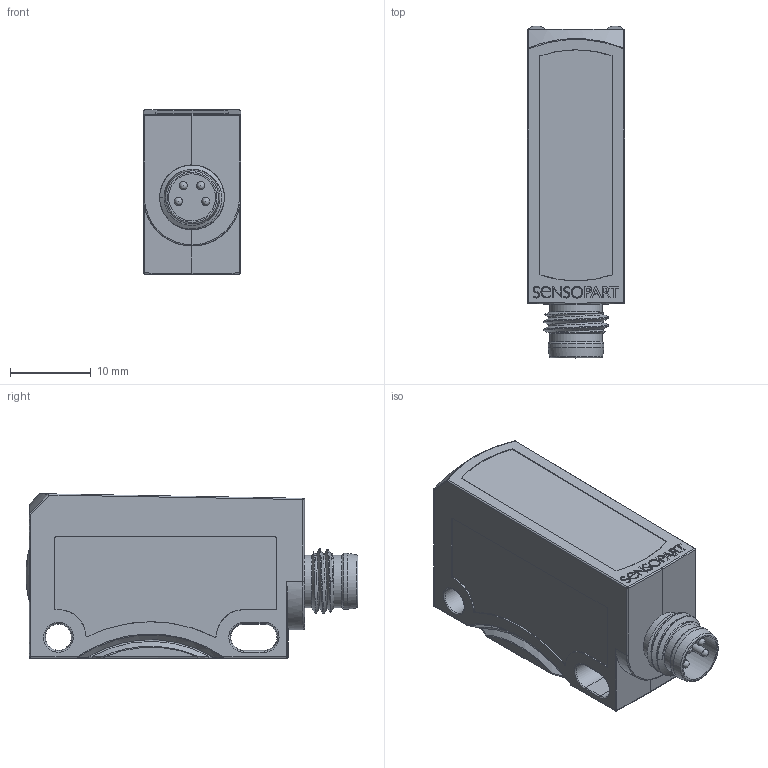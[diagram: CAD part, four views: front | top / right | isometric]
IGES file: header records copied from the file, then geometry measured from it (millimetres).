
Global section: file name: 15300957_F25 Stecker ohne Teach-in; native system: AutoCAD Mechanical 2016 - Deutsch (German); preprocessor: Autodesk Translation Framework DWG producer (atf_dwg_producer); organization: unknown; date: 20161018.085036; units: millimetre
Bounding box: 12 x 41 x 20.33 mm (x, y, z)
Volume: 7760.3 mm3; surface area: 3268.7 mm2
Topology: 1 solids, 4 shells, 265 faces, 663 edges, 408 vertices
Faces by surface type: bspline 265
